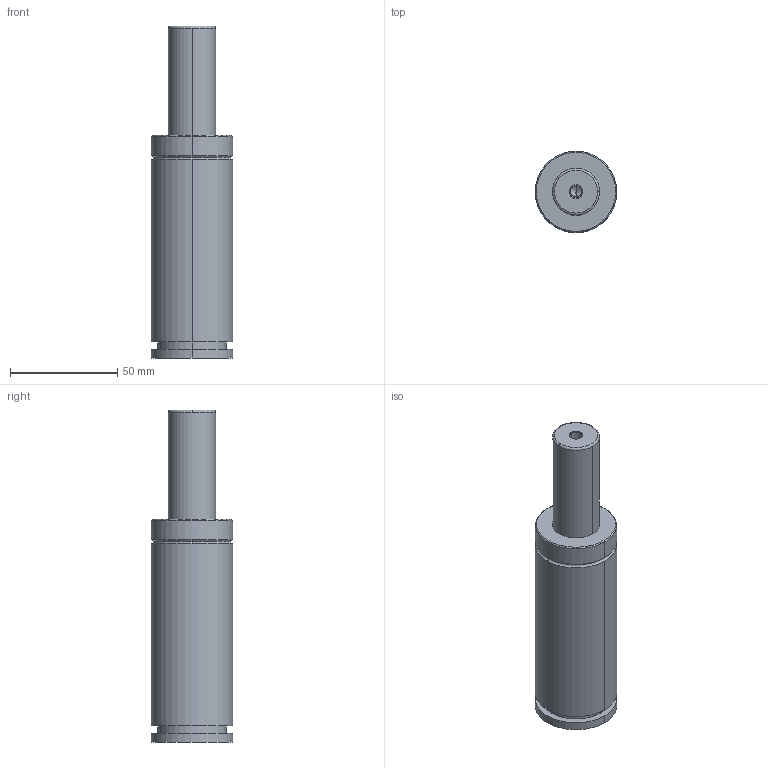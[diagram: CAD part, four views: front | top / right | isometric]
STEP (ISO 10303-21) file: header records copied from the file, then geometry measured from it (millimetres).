
FILE_DESCRIPTION(('FreeCAD Model'),'2;1');
FILE_NAME('Open CASCADE Shape Model','2024-11-12T15:46:31',('Author'),( ''),'Open CASCADE STEP processor 7.6','FreeCAD','Unknown');
FILE_SCHEMA(('AUTOMOTIVE_DESIGN { 1 0 10303 214 1 1 1 1 }'));
Length unit declared in the file: millimetre
Products named in the file (3): Unnamed; Cut; 2
Assembly tree (2 placements, depth 2):
  Unnamed
    Cut
    2
Bounding box: 38 x 38 x 155 mm (x, y, z)
Volume: 115457.4 mm3; surface area: 23988.9 mm2
Topology: 2 solids, 2 shells, 43 faces, 89 edges, 56 vertices
Faces by surface type: cylinder 20, plane 11, torus 6, cone 6
Full cylindrical faces by diameter (mm): 6 x2
Entity records: 1221 total; most frequent: DIRECTION 240, CARTESIAN_POINT 189, ORIENTED_EDGE 174, AXIS2_PLACEMENT_3D 107, EDGE_CURVE 87, CIRCLE 61, VERTEX_POINT 56, FACE_BOUND 51
